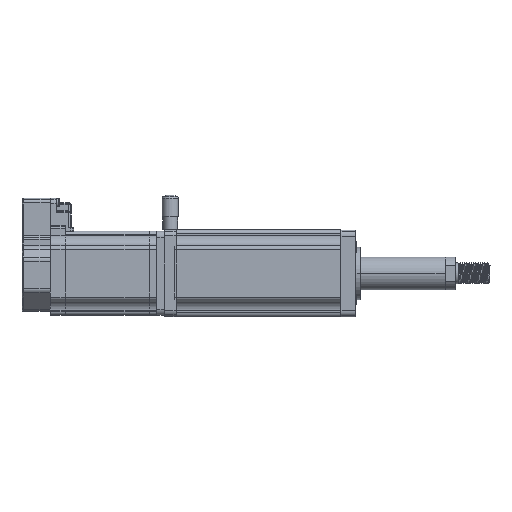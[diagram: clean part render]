
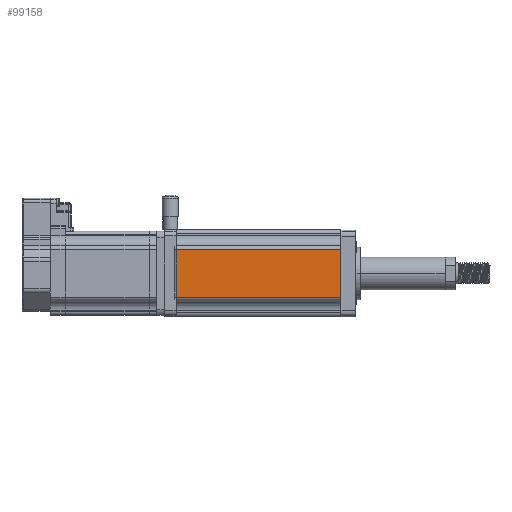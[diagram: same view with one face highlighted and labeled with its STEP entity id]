
A CAD part, front view. The second image highlights one B-rep face of the part: STEP entity #99158.
In plain terms, the highlighted planar face has unit normal (0, -1, 0).
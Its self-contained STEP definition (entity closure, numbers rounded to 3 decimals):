
#97279 = PLANE('',#97280);
#97280 = AXIS2_PLACEMENT_3D('',#97281,#97282,#97283);
#97281 = CARTESIAN_POINT('',(602.628,20.655,
    145.431));
#97282 = DIRECTION('',(-1.,0.,0.));
#97283 = DIRECTION('',(0.,-1.,0.));
#97340 = PLANE('',#97341);
#97341 = AXIS2_PLACEMENT_3D('',#97342,#97343,#97344);
#97342 = CARTESIAN_POINT('',(714.,20.655,
    145.431));
#97343 = DIRECTION('',(-1.,0.,0.));
#97344 = DIRECTION('',(0.,-1.,0.));
#97722 = VERTEX_POINT('',#97723);
#97723 = CARTESIAN_POINT('',(714.,-37.345,
    158.431));
#97731 = CYLINDRICAL_SURFACE('',#97732,2.5);
#97732 = AXIS2_PLACEMENT_3D('',#97733,#97734,#97735);
#97733 = CARTESIAN_POINT('',(602.628,-34.845,
    158.431));
#97734 = DIRECTION('',(-1.,0.,0.));
#97735 = DIRECTION('',(0.,-1.,0.));
#97750 = EDGE_CURVE('',#97722,#97751,#97753,.T.);
#97751 = VERTEX_POINT('',#97752);
#97752 = CARTESIAN_POINT('',(602.628,-37.345,
    158.431));
#97753 = SURFACE_CURVE('',#97754,(#97758,#97765),.PCURVE_S1.);
#97754 = LINE('',#97755,#97756);
#97755 = CARTESIAN_POINT('',(658.314,-37.345,
    158.431));
#97756 = VECTOR('',#97757,1.);
#97757 = DIRECTION('',(-1.,0.,0.));
#97758 = PCURVE('',#97731,#97759);
#97759 = DEFINITIONAL_REPRESENTATION('',(#97760),#97764);
#97760 = LINE('',#97761,#97762);
#97761 = CARTESIAN_POINT('',(6.283,-55.686));
#97762 = VECTOR('',#97763,1.);
#97763 = DIRECTION('',(0.,1.));
#97764 = ( GEOMETRIC_REPRESENTATION_CONTEXT(2) 
PARAMETRIC_REPRESENTATION_CONTEXT() REPRESENTATION_CONTEXT('2D SPACE',''
  ) );
#97765 = PCURVE('',#97766,#97771);
#97766 = PLANE('',#97767);
#97767 = AXIS2_PLACEMENT_3D('',#97768,#97769,#97770);
#97768 = CARTESIAN_POINT('',(714.,-37.345,
    158.431));
#97769 = DIRECTION('',(0.,1.,0.));
#97770 = DIRECTION('',(-1.,0.,0.));
#97771 = DEFINITIONAL_REPRESENTATION('',(#97772),#97776);
#97772 = LINE('',#97773,#97774);
#97773 = CARTESIAN_POINT('',(55.686,0.));
#97774 = VECTOR('',#97775,1.);
#97775 = DIRECTION('',(1.,0.));
#97776 = ( GEOMETRIC_REPRESENTATION_CONTEXT(2) 
PARAMETRIC_REPRESENTATION_CONTEXT() REPRESENTATION_CONTEXT('2D SPACE',''
  ) );
#97838 = VERTEX_POINT('',#97839);
#97839 = CARTESIAN_POINT('',(602.628,-37.345,
    190.431));
#97847 = CYLINDRICAL_SURFACE('',#97848,2.5);
#97848 = AXIS2_PLACEMENT_3D('',#97849,#97850,#97851);
#97849 = CARTESIAN_POINT('',(714.,-34.845,
    190.431));
#97850 = DIRECTION('',(1.,0.,0.));
#97851 = DIRECTION('',(0.,-1.,0.));
#97870 = EDGE_CURVE('',#97838,#97871,#97873,.T.);
#97871 = VERTEX_POINT('',#97872);
#97872 = CARTESIAN_POINT('',(714.,-37.345,
    190.431));
#97873 = SURFACE_CURVE('',#97874,(#97878,#97885),.PCURVE_S1.);
#97874 = LINE('',#97875,#97876);
#97875 = CARTESIAN_POINT('',(658.314,-37.345,
    190.431));
#97876 = VECTOR('',#97877,1.);
#97877 = DIRECTION('',(1.,0.,0.));
#97878 = PCURVE('',#97847,#97879);
#97879 = DEFINITIONAL_REPRESENTATION('',(#97880),#97884);
#97880 = LINE('',#97881,#97882);
#97881 = CARTESIAN_POINT('',(6.283,-55.686));
#97882 = VECTOR('',#97883,1.);
#97883 = DIRECTION('',(0.,1.));
#97884 = ( GEOMETRIC_REPRESENTATION_CONTEXT(2) 
PARAMETRIC_REPRESENTATION_CONTEXT() REPRESENTATION_CONTEXT('2D SPACE',''
  ) );
#97885 = PCURVE('',#97766,#97886);
#97886 = DEFINITIONAL_REPRESENTATION('',(#97887),#97891);
#97887 = LINE('',#97888,#97889);
#97888 = CARTESIAN_POINT('',(55.686,32.));
#97889 = VECTOR('',#97890,1.);
#97890 = DIRECTION('',(-1.,0.));
#97891 = ( GEOMETRIC_REPRESENTATION_CONTEXT(2) 
PARAMETRIC_REPRESENTATION_CONTEXT() REPRESENTATION_CONTEXT('2D SPACE',''
  ) );
#98594 = EDGE_CURVE('',#97871,#97722,#98595,.T.);
#98595 = SURFACE_CURVE('',#98596,(#98600,#98607),.PCURVE_S1.);
#98596 = LINE('',#98597,#98598);
#98597 = CARTESIAN_POINT('',(714.,-37.345,
    174.431));
#98598 = VECTOR('',#98599,1.);
#98599 = DIRECTION('',(0.,0.,-1.));
#98600 = PCURVE('',#97340,#98601);
#98601 = DEFINITIONAL_REPRESENTATION('',(#98602),#98606);
#98602 = LINE('',#98603,#98604);
#98603 = CARTESIAN_POINT('',(58.,29.));
#98604 = VECTOR('',#98605,1.);
#98605 = DIRECTION('',(0.,-1.));
#98606 = ( GEOMETRIC_REPRESENTATION_CONTEXT(2) 
PARAMETRIC_REPRESENTATION_CONTEXT() REPRESENTATION_CONTEXT('2D SPACE',''
  ) );
#98607 = PCURVE('',#97766,#98608);
#98608 = DEFINITIONAL_REPRESENTATION('',(#98609),#98613);
#98609 = LINE('',#98610,#98611);
#98610 = CARTESIAN_POINT('',(0.,16.));
#98611 = VECTOR('',#98612,1.);
#98612 = DIRECTION('',(0.,-1.));
#98613 = ( GEOMETRIC_REPRESENTATION_CONTEXT(2) 
PARAMETRIC_REPRESENTATION_CONTEXT() REPRESENTATION_CONTEXT('2D SPACE',''
  ) );
#98915 = EDGE_CURVE('',#97751,#97838,#98916,.T.);
#98916 = SURFACE_CURVE('',#98917,(#98921,#98928),.PCURVE_S1.);
#98917 = LINE('',#98918,#98919);
#98918 = CARTESIAN_POINT('',(602.628,-37.345,
    174.431));
#98919 = VECTOR('',#98920,1.);
#98920 = DIRECTION('',(0.,0.,1.));
#98921 = PCURVE('',#97279,#98922);
#98922 = DEFINITIONAL_REPRESENTATION('',(#98923),#98927);
#98923 = LINE('',#98924,#98925);
#98924 = CARTESIAN_POINT('',(58.,29.));
#98925 = VECTOR('',#98926,1.);
#98926 = DIRECTION('',(0.,1.));
#98927 = ( GEOMETRIC_REPRESENTATION_CONTEXT(2) 
PARAMETRIC_REPRESENTATION_CONTEXT() REPRESENTATION_CONTEXT('2D SPACE',''
  ) );
#98928 = PCURVE('',#97766,#98929);
#98929 = DEFINITIONAL_REPRESENTATION('',(#98930),#98934);
#98930 = LINE('',#98931,#98932);
#98931 = CARTESIAN_POINT('',(111.372,16.));
#98932 = VECTOR('',#98933,1.);
#98933 = DIRECTION('',(0.,1.));
#98934 = ( GEOMETRIC_REPRESENTATION_CONTEXT(2) 
PARAMETRIC_REPRESENTATION_CONTEXT() REPRESENTATION_CONTEXT('2D SPACE',''
  ) );
#99158 = ADVANCED_FACE('',(#99159),#97766,.F.);
#99159 = FACE_BOUND('',#99160,.T.);
#99160 = EDGE_LOOP('',(#99161,#99162,#99163,#99164));
#99161 = ORIENTED_EDGE('',*,*,#97750,.F.);
#99162 = ORIENTED_EDGE('',*,*,#98594,.F.);
#99163 = ORIENTED_EDGE('',*,*,#97870,.F.);
#99164 = ORIENTED_EDGE('',*,*,#98915,.F.);
